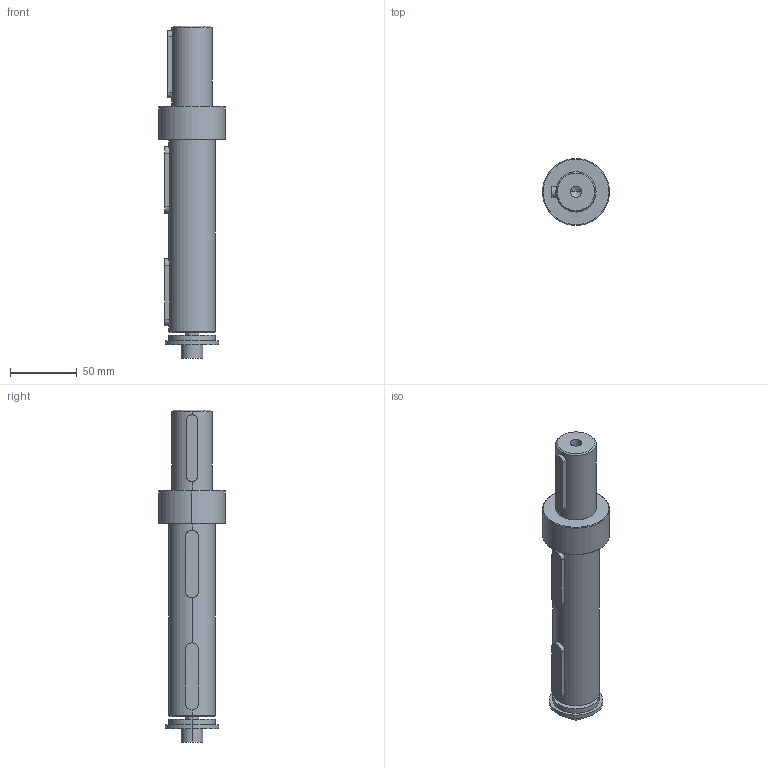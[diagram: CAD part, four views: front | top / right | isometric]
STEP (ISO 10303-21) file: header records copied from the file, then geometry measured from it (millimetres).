
FILE_DESCRIPTION((''),'2;1');
FILE_NAME('SOSEN4_2','2015-06-07T',('Luca'),(''),'PRO/ENGINEER BY PARAMETRIC TECHNOLOGY CORPORATION, 2008230','PRO/ENGINEER BY PARAMETRIC TECHNOLOGY CORPORATION, 2008230','');
FILE_SCHEMA(('CONFIG_CONTROL_DESIGN'));
Length unit declared in the file: millimetre
Products named in the file (1): SOSEN4_2
Bounding box: 50 x 50 x 248 mm (x, y, z)
Volume: 241073.8 mm3; surface area: 35503.9 mm2
Topology: 1 solids, 2 shells, 54 faces, 143 edges, 96 vertices
Faces by surface type: cylinder 24, plane 18, cone 12
Entity records: 1790 total; most frequent: CARTESIAN_POINT 374, DIRECTION 305, ORIENTED_EDGE 278, EDGE_CURVE 139, AXIS2_PLACEMENT_3D 124, VERTEX_POINT 96, CIRCLE 70, EDGE_LOOP 61
